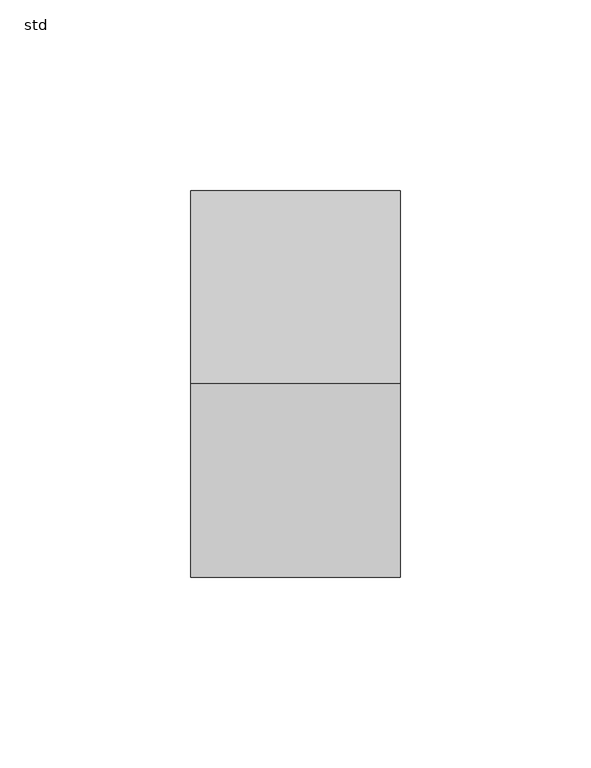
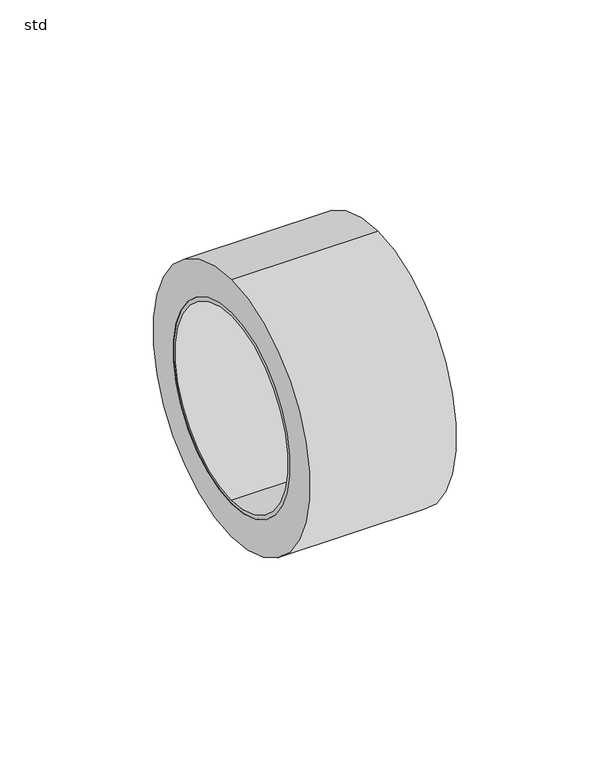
"""IFC4 building model written with IfcOpenShell, lengths in millimetres: pipe fitting geometry, PIF_ST_UN_GM-X compound pipe multi-optimiser (transition)_ACO : std."""

from ifc_helpers import new_model, si_unit, point, frame, origin, origin_2d, place, context, project, spatial, polyline, circle_curve, trimmed, segment, composite_curve, outline, extrude, source, transform, mapped, element, save
from ifc_brep_helpers import plane_surface, cylinder_surface, revolved_surface, advanced_brep


def std_f74d09a4(model_context):
    return source(origin(), model_context, "Body", "SolidModel", [
        extrude(outline(composite_curve([segment(trimmed(circle_curve(origin_2d(), 51.0), [point((0.0, -51.0))], [point((0.0, 51.0))], False, "CARTESIAN"), True, "CONTINUOUS"), segment(trimmed(circle_curve(origin_2d(), 51.0), [point((0.0, 51.0))], [point((0.0, -51.0))], False, "CARTESIAN"), True, "CONTINUOUS")], self_intersect=False), holes=[composite_curve([segment(trimmed(circle_curve(origin_2d(), 38.0), [point((0.0, -38.0))], [point((0.0, 38.0))], True, "CARTESIAN"), True, "CONTINUOUS"), segment(trimmed(circle_curve(origin_2d(), 38.0), [point((0.0, 38.0))], [point((0.0, -38.0))], True, "CARTESIAN"), True, "CONTINUOUS")], self_intersect=False)]), frame((705.0, 0.0, 0.0), z_axis=(1.0, 0.0, 0.0), x_axis=(0.0, 1.0, 0.0)), (0.0, 0.0, 1.0), 55.0),
        advanced_brep(
        [(760.0, 0.0, -38.0), (760.0, 0.0, 38.0), (760.0, 0.0, 36.5), (760.0, 0.0, -36.5), (705.0, 0.0, -38.0), (705.0, 0.0, 38.0), (705.0, 0.0, -36.5), (705.0, 0.0, 36.5), (710.9, 0.0, -38.0), (710.9, 0.0, 38.0), (731.0, 0.0, 38.0), (731.0, 0.0, -38.0), (731.0, 0.0, -42.1), (731.0, 0.0, 42.1), (710.9, 0.0, -42.1), (710.9, 0.0, 42.1)],
        [
            (0, 1, circle_curve(frame((760.0, 0.0, 0.0), z_axis=(1.0, 0.0, 0.0), x_axis=(0.0, 0.0, 1.0)), 38.0)),
            (1, 0, circle_curve(frame((760.0, 0.0, 0.0), z_axis=(1.0, 0.0, 0.0), x_axis=(0.0, 0.0, 1.0)), 38.0)),
            (2, 3, circle_curve(frame((760.0, 0.0, 0.0), z_axis=(-1.0, 0.0, 0.0), x_axis=(0.0, 0.0, 1.0)), 36.5)),
            (3, 2, circle_curve(frame((760.0, 0.0, 0.0), z_axis=(-1.0, 0.0, 0.0), x_axis=(0.0, 0.0, 1.0)), 36.5)),
            (4, 5, circle_curve(frame((705.0, 0.0, 0.0), z_axis=(-1.0, 0.0, 0.0), x_axis=(0.0, 0.0, 1.0)), 38.0)),
            (5, 4, circle_curve(frame((705.0, 0.0, 0.0), z_axis=(-1.0, 0.0, 0.0), x_axis=(0.0, 0.0, 1.0)), 38.0)),
            (6, 7, circle_curve(frame((705.0, 0.0, 0.0), z_axis=(1.0, 0.0, 0.0), x_axis=(0.0, 0.0, 1.0)), 36.5)),
            (7, 6, circle_curve(frame((705.0, 0.0, 0.0), z_axis=(1.0, 0.0, 0.0), x_axis=(0.0, 0.0, 1.0)), 36.5)),
            (4, 8),
            (8, 9, circle_curve(frame((710.9, 0.0, 0.0), z_axis=(-1.0, 0.0, 0.0), x_axis=(0.0, 0.0, 1.0)), 38.0)),
            (9, 5),
            (1, 10),
            (10, 11, circle_curve(frame((731.0, 0.0, 0.0), z_axis=(1.0, 0.0, 0.0), x_axis=(0.0, 0.0, 1.0)), 38.0)),
            (11, 0),
            (11, 10, circle_curve(frame((731.0, 0.0, 0.0), z_axis=(1.0, 0.0, 0.0), x_axis=(0.0, 0.0, 1.0)), 38.0)),
            (9, 8, circle_curve(frame((710.9, 0.0, 0.0), z_axis=(-1.0, 0.0, 0.0), x_axis=(0.0, 0.0, 1.0)), 38.0)),
            (3, 6),
            (7, 2),
            (12, 13, circle_curve(frame((731.0, 0.0, 0.0), z_axis=(1.0, 0.0, 0.0), x_axis=(0.0, 0.0, 1.0)), 42.1)),
            (13, 12, circle_curve(frame((731.0, 0.0, 0.0), z_axis=(1.0, 0.0, 0.0), x_axis=(0.0, 0.0, 1.0)), 42.1)),
            (14, 15, circle_curve(frame((710.9, 0.0, 0.0), z_axis=(-1.0, 0.0, 0.0), x_axis=(0.0, 0.0, 1.0)), 42.1)),
            (15, 14, circle_curve(frame((710.9, 0.0, 0.0), z_axis=(-1.0, 0.0, 0.0), x_axis=(0.0, 0.0, 1.0)), 42.1)),
            (13, 15),
            (14, 12),
        ],
        [
            plane_surface(frame((760.0, 0.0, 38.0), z_axis=(1.0, 0.0, 0.0), x_axis=(0.0, 1.0, 0.0))),
            plane_surface(frame((705.0, 0.0, 38.0), z_axis=(-1.0, 0.0, 0.0), x_axis=(0.0, -1.0, 0.0))),
            cylinder_surface(frame((705.0, 0.0, 0.0), z_axis=(1.0, 0.0, 0.0), x_axis=(0.0, 0.0, 1.0)), 38.0),
            revolved_surface(polyline([(760.0, 0.0, 36.5), (705.0, 0.0, 36.5)]), (705.0, 0.0, 0.0), (1.0, 0.0, 0.0)),
            plane_surface(frame((731.0, 0.0, 42.1), z_axis=(1.0, 0.0, 0.0), x_axis=(0.0, 1.0, 0.0))),
            plane_surface(frame((710.9, 0.0, 42.1), z_axis=(-1.0, 0.0, 0.0), x_axis=(0.0, -1.0, 0.0))),
            cylinder_surface(frame((710.9, 0.0, 0.0), z_axis=(1.0, 0.0, 0.0), x_axis=(0.0, 0.0, 1.0)), 42.1),
        ],
        [
            (0, [[1, 2], [3, 4]]),
            (1, [[5, 6], [7, 8]]),
            (2, [[9, 10, 11, -5]]),
            (2, [[12, 13, 14, -2]]),
            (2, [[-14, 15, -12, -1]]),
            (2, [[-11, 16, -9, -6]]),
            (3, [[-4, 17, -8, 18]]),
            (3, [[-7, -17, -3, -18]]),
            (4, [[19, 20], [-15, -13]]),
            (5, [[21, 22], [-16, -10]]),
            (6, [[23, -21, 24, -20]]),
            (6, [[-24, -22, -23, -19]]),
        ],
    ),
    ])


if __name__ == "__main__":
    model = new_model("IFC4")
    model_context = context("Model", 3, world=origin())
    ifc_project = project(units=[si_unit("LENGTHUNIT", "METRE", prefix="MILLI")], contexts=[model_context])
    site = spatial("IfcSite", under=ifc_project)
    building = spatial("IfcBuilding", under=site)
    placement = place(None, origin())
    std_shape = std_f74d09a4(model_context)
    element("IfcPipeFitting", 1, ObjectType="PIF_ST_UN_GM-X compound pipe multi-optimiser (transition)_ACO : std", at=placement, inside=building, context=model_context, shape_type="MappedRepresentation", body=[
        mapped(std_shape, transform((0.0, 0.0, 0.0), x_axis=(1.0, 0.0, 0.0), y_axis=(0.0, 1.0, 0.0), z_axis=(0.0, 0.0, 1.0))),
    ])
    save(model, "model.ifc")
